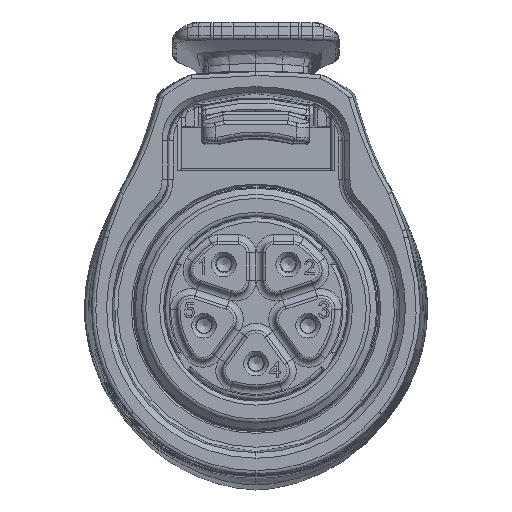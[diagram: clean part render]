
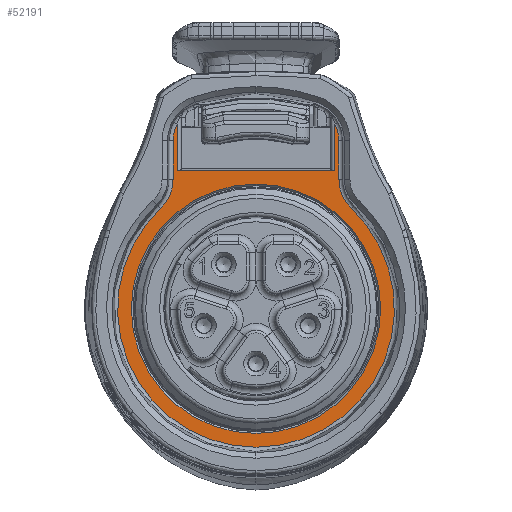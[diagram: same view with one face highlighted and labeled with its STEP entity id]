
A CAD part, left-side view. The second image highlights one B-rep face of the part: STEP entity #52191.
In plain terms, the highlighted planar face has unit normal (-1, 0, 0).
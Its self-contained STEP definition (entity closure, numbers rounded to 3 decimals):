
#588 = CIRCLE ( 'NONE', #50513, 2.553 ) ;
#3744 = DIRECTION ( 'NONE',  ( -1., 0., 0. ) ) ;
#5429 = EDGE_CURVE ( 'NONE', #84034, #67578, #29464, .T. ) ;
#5546 = ORIENTED_EDGE ( 'NONE', *, *, #45393, .T. ) ;
#6561 = ORIENTED_EDGE ( 'NONE', *, *, #34858, .T. ) ;
#6843 = CIRCLE ( 'NONE', #8449, 9.1 ) ;
#6969 = CARTESIAN_POINT ( 'NONE',  ( 5.569, 6.967, 27.999 ) ) ;
#8449 = AXIS2_PLACEMENT_3D ( 'NONE', #94892, #18057, #41192 ) ;
#9939 = AXIS2_PLACEMENT_3D ( 'NONE', #56699, #48829, #77869 ) ;
#10745 = AXIS2_PLACEMENT_3D ( 'NONE', #16258, #44366, #23171 ) ;
#11987 = LINE ( 'NONE', #49443, #15202 ) ;
#12646 = VECTOR ( 'NONE', #65890, 1000. ) ;
#13203 = CARTESIAN_POINT ( 'NONE',  ( 5.569, -5.752, 32.859 ) ) ;
#15202 = VECTOR ( 'NONE', #79956, 1000. ) ;
#16258 = CARTESIAN_POINT ( 'NONE',  ( 5.569, 3.5, 32.859 ) ) ;
#16627 = DIRECTION ( 'NONE',  ( 0., 0., -1. ) ) ;
#17520 = VERTEX_POINT ( 'NONE', #40651 ) ;
#18057 = DIRECTION ( 'NONE',  ( 1., 0., 0. ) ) ;
#18560 = LINE ( 'NONE', #87523, #65666 ) ;
#18571 = LINE ( 'NONE', #48629, #62566 ) ;
#20318 = EDGE_CURVE ( 'NONE', #25776, #33015, #77593, .T. ) ;
#21156 = CARTESIAN_POINT ( 'NONE',  ( 5.569, -5.752, 34.16 ) ) ;
#22395 = CARTESIAN_POINT ( 'NONE',  ( 5.569, -6.967, 27.999 ) ) ;
#23171 = DIRECTION ( 'NONE',  ( 0., -1., 0. ) ) ;
#24830 = CARTESIAN_POINT ( 'NONE',  ( 5.569, 9., 30.133 ) ) ;
#25776 = VERTEX_POINT ( 'NONE', #6969 ) ;
#26037 = CARTESIAN_POINT ( 'NONE',  ( 5.569, -3.5, 32.959 ) ) ;
#26778 = EDGE_CURVE ( 'NONE', #17520, #17520, #6843, .T. ) ;
#26966 = EDGE_LOOP ( 'NONE', ( #60525 ) ) ;
#27052 = VERTEX_POINT ( 'NONE', #69648 ) ;
#28433 = CARTESIAN_POINT ( 'NONE',  ( 5.569, 5.752, 30.784 ) ) ;
#29464 = LINE ( 'NONE', #13203, #12646 ) ;
#30560 = EDGE_CURVE ( 'NONE', #33015, #67945, #84303, .T. ) ;
#31967 = DIRECTION ( 'NONE',  ( -1., 0., 0. ) ) ;
#32149 = AXIS2_PLACEMENT_3D ( 'NONE', #40222, #3744, #41699 ) ;
#32919 = VECTOR ( 'NONE', #69332, 1000. ) ;
#33015 = VERTEX_POINT ( 'NONE', #22395 ) ;
#34858 = EDGE_CURVE ( 'NONE', #67578, #45591, #11987, .T. ) ;
#38341 = EDGE_LOOP ( 'NONE', ( #6561, #5546, #83999, #45705, #61872, #93565, #42454, #65887, #58895, #61318 ) ) ;
#38363 = CARTESIAN_POINT ( 'NONE',  ( 5.569, 5.752, 34.16 ) ) ;
#38464 = EDGE_CURVE ( 'NONE', #67945, #27052, #18560, .T. ) ;
#40049 = AXIS2_PLACEMENT_3D ( 'NONE', #24830, #86868, #64199 ) ;
#40222 = CARTESIAN_POINT ( 'NONE',  ( 5.569, 3.5, 32.959 ) ) ;
#40651 = CARTESIAN_POINT ( 'NONE',  ( 5.569, -9.1, 20.683 ) ) ;
#41192 = DIRECTION ( 'NONE',  ( 0., -1., 0. ) ) ;
#41699 = DIRECTION ( 'NONE',  ( 0., -1., 0. ) ) ;
#42454 = ORIENTED_EDGE ( 'NONE', *, *, #30560, .T. ) ;
#44366 = DIRECTION ( 'NONE',  ( -1., 0., 0. ) ) ;
#44855 = FACE_OUTER_BOUND ( 'NONE', #38341, .T. ) ;
#45393 = EDGE_CURVE ( 'NONE', #45591, #66668, #48647, .T. ) ;
#45591 = VERTEX_POINT ( 'NONE', #28433 ) ;
#45705 = ORIENTED_EDGE ( 'NONE', *, *, #50475, .T. ) ;
#47927 = CARTESIAN_POINT ( 'NONE',  ( 5.569, 6.053, 32.959 ) ) ;
#48629 = CARTESIAN_POINT ( 'NONE',  ( 5.569, 6.053, 30.133 ) ) ;
#48647 = LINE ( 'NONE', #61937, #32919 ) ;
#48829 = DIRECTION ( 'NONE',  ( -1., 0., 0. ) ) ;
#49443 = CARTESIAN_POINT ( 'NONE',  ( 5.569, 3.5, 30.784 ) ) ;
#50416 = CARTESIAN_POINT ( 'NONE',  ( 5.569, -6.053, 30.133 ) ) ;
#50475 = EDGE_CURVE ( 'NONE', #73076, #59699, #18571, .T. ) ;
#50513 = AXIS2_PLACEMENT_3D ( 'NONE', #26037, #31967, #86110 ) ;
#51040 = DIRECTION ( 'NONE',  ( 0., -1., 0. ) ) ;
#52191 = ADVANCED_FACE ( 'NONE', ( #44855, #59133 ), #52723, .T. ) ;
#52723 = PLANE ( 'NONE',  #10745 ) ;
#56699 = CARTESIAN_POINT ( 'NONE',  ( 5.569, 0., 20.683 ) ) ;
#57046 = EDGE_CURVE ( 'NONE', #66668, #73076, #82466, .T. ) ;
#58895 = ORIENTED_EDGE ( 'NONE', *, *, #79959, .T. ) ;
#59133 = FACE_BOUND ( 'NONE', #26966, .T. ) ;
#59699 = VERTEX_POINT ( 'NONE', #77067 ) ;
#60525 = ORIENTED_EDGE ( 'NONE', *, *, #26778, .T. ) ;
#61318 = ORIENTED_EDGE ( 'NONE', *, *, #5429, .T. ) ;
#61872 = ORIENTED_EDGE ( 'NONE', *, *, #82670, .T. ) ;
#61937 = CARTESIAN_POINT ( 'NONE',  ( 5.569, 5.752, 32.859 ) ) ;
#62295 = AXIS2_PLACEMENT_3D ( 'NONE', #82536, #81568, #51040 ) ;
#62566 = VECTOR ( 'NONE', #16627, 1000. ) ;
#64199 = DIRECTION ( 'NONE',  ( 0., -1., 0. ) ) ;
#65666 = VECTOR ( 'NONE', #85540, 1000. ) ;
#65887 = ORIENTED_EDGE ( 'NONE', *, *, #38464, .T. ) ;
#65890 = DIRECTION ( 'NONE',  ( 0., 0., -1. ) ) ;
#66668 = VERTEX_POINT ( 'NONE', #38363 ) ;
#66761 = CIRCLE ( 'NONE', #40049, 2.947 ) ;
#67578 = VERTEX_POINT ( 'NONE', #84660 ) ;
#67945 = VERTEX_POINT ( 'NONE', #50416 ) ;
#69332 = DIRECTION ( 'NONE',  ( 0., 0., 1. ) ) ;
#69648 = CARTESIAN_POINT ( 'NONE',  ( 5.569, -6.053, 32.959 ) ) ;
#73076 = VERTEX_POINT ( 'NONE', #47927 ) ;
#77067 = CARTESIAN_POINT ( 'NONE',  ( 5.569, 6.053, 30.133 ) ) ;
#77593 = CIRCLE ( 'NONE', #9939, 10.103 ) ;
#77869 = DIRECTION ( 'NONE',  ( 0., -1., 0. ) ) ;
#79956 = DIRECTION ( 'NONE',  ( 0., 1., 0. ) ) ;
#79959 = EDGE_CURVE ( 'NONE', #27052, #84034, #588, .T. ) ;
#81568 = DIRECTION ( 'NONE',  ( 1., 0., 0. ) ) ;
#82466 = CIRCLE ( 'NONE', #32149, 2.553 ) ;
#82536 = CARTESIAN_POINT ( 'NONE',  ( 5.569, -9., 30.133 ) ) ;
#82670 = EDGE_CURVE ( 'NONE', #59699, #25776, #66761, .T. ) ;
#83999 = ORIENTED_EDGE ( 'NONE', *, *, #57046, .T. ) ;
#84034 = VERTEX_POINT ( 'NONE', #21156 ) ;
#84303 = CIRCLE ( 'NONE', #62295, 2.947 ) ;
#84660 = CARTESIAN_POINT ( 'NONE',  ( 5.569, -5.752, 30.784 ) ) ;
#85540 = DIRECTION ( 'NONE',  ( 0., 0., 1. ) ) ;
#86110 = DIRECTION ( 'NONE',  ( 0., -1., 0. ) ) ;
#86868 = DIRECTION ( 'NONE',  ( 1., 0., 0. ) ) ;
#87523 = CARTESIAN_POINT ( 'NONE',  ( 5.569, -6.053, 32.959 ) ) ;
#93565 = ORIENTED_EDGE ( 'NONE', *, *, #20318, .T. ) ;
#94892 = CARTESIAN_POINT ( 'NONE',  ( 5.569, 0., 20.683 ) ) ;
